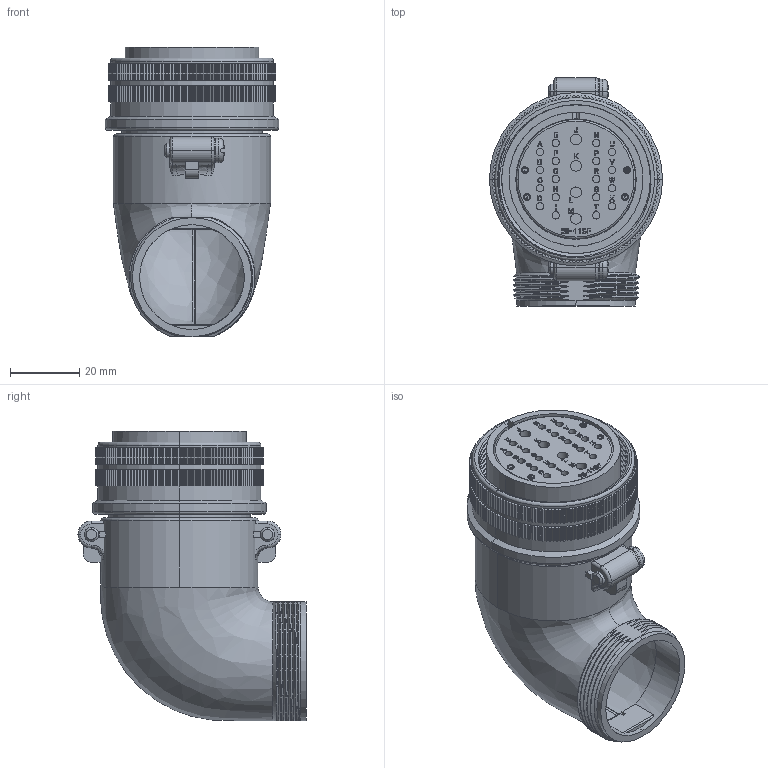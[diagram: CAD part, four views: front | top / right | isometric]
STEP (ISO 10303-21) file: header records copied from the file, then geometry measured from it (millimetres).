
FILE_DESCRIPTION (( 'STEP AP203' ), '1' );
FILE_NAME ('DMS3108B28-11S.STEP', '2018-08-03T01:02:54', ( '' ), ( '' ), 'SwSTEP 2.0', 'SolidWorks 2018', '' );
FILE_SCHEMA (( 'CONFIG_CONTROL_DESIGN' ));
Products named in the file (1): DMS3108B28-11S
Bounding box: 49.95 x 65.78 x 83.4 mm (x, y, z)
Volume: 66175.1 mm3; surface area: 43882.5 mm2
Topology: 1 solids, 1 shells, 3773 faces, 10736 edges, 7129 vertices
Faces by surface type: cylinder 1857, plane 1522, bspline 330, torus 42, cone 18, sphere 4
Entity records: 153353 total; most frequent: CARTESIAN_POINT 54687, ORIENTED_EDGE 21472, DIRECTION 20175, EDGE_CURVE 10736, VERTEX_POINT 7129, AXIS2_PLACEMENT_3D 7090, LINE 5995, VECTOR 5995
